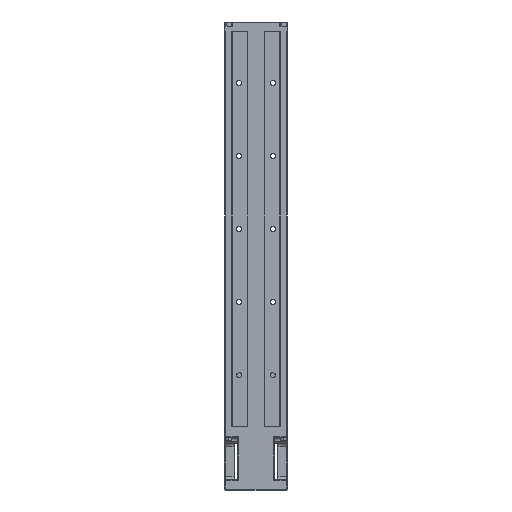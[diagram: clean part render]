
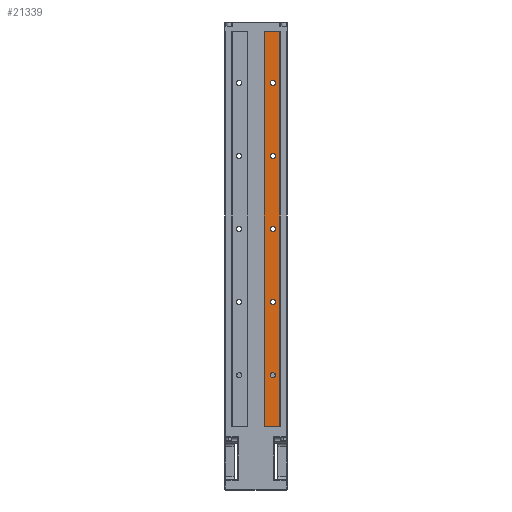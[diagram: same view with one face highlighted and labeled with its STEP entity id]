
A CAD part, front view. The second image highlights one B-rep face of the part: STEP entity #21339.
In plain terms, the highlighted planar face has unit normal (0, -1, 0).
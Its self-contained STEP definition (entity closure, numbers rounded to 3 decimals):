
#611 = DIRECTION ( 'NONE',  ( 0., 0., -1. ) ) ;
#888 = CIRCLE ( 'NONE', #34418, 3.5 ) ;
#1421 = CARTESIAN_POINT ( 'NONE',  ( -14.24, 21.854, 780.5 ) ) ;
#1499 = CARTESIAN_POINT ( 'NONE',  ( -14.24, 21.854, 477. ) ) ;
#3366 = CIRCLE ( 'NONE', #46566, 3.5 ) ;
#3585 = VECTOR ( 'NONE', #41159, 1000. ) ;
#3659 = VERTEX_POINT ( 'NONE', #10559 ) ;
#3777 = CARTESIAN_POINT ( 'NONE',  ( -14.24, 21.854, 380.5 ) ) ;
#4170 = LINE ( 'NONE', #21810, #39013 ) ;
#5568 = CIRCLE ( 'NONE', #36267, 3.5 ) ;
#5574 = ORIENTED_EDGE ( 'NONE', *, *, #25161, .T. ) ;
#5891 = EDGE_CURVE ( 'NONE', #38540, #15626, #3366, .T. ) ;
#6003 = DIRECTION ( 'NONE',  ( 0., 0., -1. ) ) ;
#6079 = CARTESIAN_POINT ( 'NONE',  ( -14.24, 21.854, 677. ) ) ;
#6493 = DIRECTION ( 'NONE',  ( 0., 0., -1. ) ) ;
#6632 = EDGE_CURVE ( 'NONE', #38543, #28692, #38100, .T. ) ;
#7137 = CARTESIAN_POINT ( 'NONE',  ( -14.24, 21.854, 777. ) ) ;
#8372 = ORIENTED_EDGE ( 'NONE', *, *, #27002, .T. ) ;
#8443 = AXIS2_PLACEMENT_3D ( 'NONE', #1499, #37510, #611 ) ;
#8529 = DIRECTION ( 'NONE',  ( 0., 0., -1. ) ) ;
#8880 = DIRECTION ( 'NONE',  ( 0., 1., 0. ) ) ;
#9064 = EDGE_LOOP ( 'NONE', ( #5574, #43344 ) ) ;
#9667 = DIRECTION ( 'NONE',  ( 0., 0., -1. ) ) ;
#10523 = ORIENTED_EDGE ( 'NONE', *, *, #38650, .T. ) ;
#10559 = CARTESIAN_POINT ( 'NONE',  ( -25.74, 21.854, 307. ) ) ;
#10563 = EDGE_LOOP ( 'NONE', ( #53186, #58614, #8372, #58556 ) ) ;
#10599 = EDGE_CURVE ( 'NONE', #38543, #3659, #49702, .T. ) ;
#10612 = DIRECTION ( 'NONE',  ( 0., 1., 0. ) ) ;
#10779 = DIRECTION ( 'NONE',  ( 0., 1., 0. ) ) ;
#11566 = VERTEX_POINT ( 'NONE', #31401 ) ;
#11988 = DIRECTION ( 'NONE',  ( 0., 0., -1. ) ) ;
#13286 = DIRECTION ( 'NONE',  ( -1., 0., 0. ) ) ;
#13484 = CARTESIAN_POINT ( 'NONE',  ( -4.74, 21.854, 307. ) ) ;
#14308 = FACE_BOUND ( 'NONE', #24527, .T. ) ;
#14604 = FACE_BOUND ( 'NONE', #51254, .T. ) ;
#15095 = EDGE_CURVE ( 'NONE', #42707, #26233, #16327, .T. ) ;
#15314 = CIRCLE ( 'NONE', #30633, 3.5 ) ;
#15405 = AXIS2_PLACEMENT_3D ( 'NONE', #50362, #8880, #45534 ) ;
#15626 = VERTEX_POINT ( 'NONE', #23004 ) ;
#16184 = ORIENTED_EDGE ( 'NONE', *, *, #5891, .T. ) ;
#16327 = CIRCLE ( 'NONE', #50013, 3.5 ) ;
#16681 = CARTESIAN_POINT ( 'NONE',  ( -4.74, 21.854, 847. ) ) ;
#17010 = CARTESIAN_POINT ( 'NONE',  ( -14.24, 21.854, 473.5 ) ) ;
#18180 = FACE_BOUND ( 'NONE', #51971, .T. ) ;
#19074 = FACE_BOUND ( 'NONE', #30022, .T. ) ;
#20302 = VERTEX_POINT ( 'NONE', #44995 ) ;
#20432 = CIRCLE ( 'NONE', #57966, 3.5 ) ;
#20466 = CARTESIAN_POINT ( 'NONE',  ( -14.24, 21.854, 777. ) ) ;
#20699 = ORIENTED_EDGE ( 'NONE', *, *, #52939, .T. ) ;
#21339 = ADVANCED_FACE ( 'NONE', ( #41401, #14308, #19074, #18180, #14604, #36561 ), #32358, .T. ) ;
#21347 = VECTOR ( 'NONE', #42046, 1000. ) ;
#21364 = AXIS2_PLACEMENT_3D ( 'NONE', #20466, #56368, #43077 ) ;
#21810 = CARTESIAN_POINT ( 'NONE',  ( -25.74, 21.854, 847. ) ) ;
#23004 = CARTESIAN_POINT ( 'NONE',  ( -14.24, 21.854, 680.5 ) ) ;
#24290 = CARTESIAN_POINT ( 'NONE',  ( -14.24, 21.854, 377. ) ) ;
#24527 = EDGE_LOOP ( 'NONE', ( #52815, #30004 ) ) ;
#24537 = DIRECTION ( 'NONE',  ( 0., 1., 0. ) ) ;
#24806 = DIRECTION ( 'NONE',  ( 0., 0., -1. ) ) ;
#25161 = EDGE_CURVE ( 'NONE', #11566, #41408, #30058, .T. ) ;
#26233 = VERTEX_POINT ( 'NONE', #50719 ) ;
#26759 = DIRECTION ( 'NONE',  ( 0., 1., 0. ) ) ;
#27002 = EDGE_CURVE ( 'NONE', #28692, #51781, #31822, .T. ) ;
#27279 = CARTESIAN_POINT ( 'NONE',  ( -14.24, 21.854, 673.5 ) ) ;
#27689 = VECTOR ( 'NONE', #13286, 1000. ) ;
#28257 = CARTESIAN_POINT ( 'NONE',  ( -14.24, 21.854, 377. ) ) ;
#28692 = VERTEX_POINT ( 'NONE', #16681 ) ;
#28720 = CARTESIAN_POINT ( 'NONE',  ( 5.76, 21.854, 847. ) ) ;
#29059 = DIRECTION ( 'NONE',  ( 0., 0., -1. ) ) ;
#30004 = ORIENTED_EDGE ( 'NONE', *, *, #41595, .T. ) ;
#30022 = EDGE_LOOP ( 'NONE', ( #46293, #32452 ) ) ;
#30058 = CIRCLE ( 'NONE', #43513, 3.5 ) ;
#30306 = CARTESIAN_POINT ( 'NONE',  ( -14.24, 21.854, 773.5 ) ) ;
#30633 = AXIS2_PLACEMENT_3D ( 'NONE', #28257, #46034, #9667 ) ;
#31401 = CARTESIAN_POINT ( 'NONE',  ( -14.24, 21.854, 373.5 ) ) ;
#31822 = LINE ( 'NONE', #59229, #3585 ) ;
#32358 = PLANE ( 'NONE',  #43929 ) ;
#32452 = ORIENTED_EDGE ( 'NONE', *, *, #35916, .T. ) ;
#33557 = DIRECTION ( 'NONE',  ( 0., -1., 0. ) ) ;
#34146 = EDGE_CURVE ( 'NONE', #41408, #11566, #15314, .T. ) ;
#34418 = AXIS2_PLACEMENT_3D ( 'NONE', #57766, #53252, #53556 ) ;
#34579 = CIRCLE ( 'NONE', #15405, 3.5 ) ;
#35146 = VERTEX_POINT ( 'NONE', #30306 ) ;
#35820 = CARTESIAN_POINT ( 'NONE',  ( -59.34, 21.854, 307. ) ) ;
#35916 = EDGE_CURVE ( 'NONE', #26233, #42707, #34579, .T. ) ;
#36125 = CARTESIAN_POINT ( 'NONE',  ( -14.24, 21.854, 577. ) ) ;
#36267 = AXIS2_PLACEMENT_3D ( 'NONE', #6079, #10612, #11988 ) ;
#36561 = FACE_OUTER_BOUND ( 'NONE', #10563, .T. ) ;
#36581 = DIRECTION ( 'NONE',  ( 0., 0., -1. ) ) ;
#37510 = DIRECTION ( 'NONE',  ( 0., 1., 0. ) ) ;
#37540 = ORIENTED_EDGE ( 'NONE', *, *, #58639, .T. ) ;
#37809 = CARTESIAN_POINT ( 'NONE',  ( -4.74, 21.854, 847. ) ) ;
#38100 = LINE ( 'NONE', #37809, #21347 ) ;
#38218 = CARTESIAN_POINT ( 'NONE',  ( -14.24, 21.854, 573.5 ) ) ;
#38540 = VERTEX_POINT ( 'NONE', #27279 ) ;
#38543 = VERTEX_POINT ( 'NONE', #13484 ) ;
#38650 = EDGE_CURVE ( 'NONE', #45221, #35146, #20432, .T. ) ;
#39013 = VECTOR ( 'NONE', #36581, 1000. ) ;
#39293 = CARTESIAN_POINT ( 'NONE',  ( -25.74, 21.854, 847. ) ) ;
#41067 = CIRCLE ( 'NONE', #8443, 3.5 ) ;
#41159 = DIRECTION ( 'NONE',  ( -1., 0., 0. ) ) ;
#41401 = FACE_BOUND ( 'NONE', #9064, .T. ) ;
#41408 = VERTEX_POINT ( 'NONE', #3777 ) ;
#41595 = EDGE_CURVE ( 'NONE', #20302, #42077, #888, .T. ) ;
#42046 = DIRECTION ( 'NONE',  ( 0., 0., 1. ) ) ;
#42077 = VERTEX_POINT ( 'NONE', #17010 ) ;
#42707 = VERTEX_POINT ( 'NONE', #38218 ) ;
#42950 = DIRECTION ( 'NONE',  ( 0., 1., 0. ) ) ;
#43077 = DIRECTION ( 'NONE',  ( 0., 0., -1. ) ) ;
#43344 = ORIENTED_EDGE ( 'NONE', *, *, #34146, .T. ) ;
#43513 = AXIS2_PLACEMENT_3D ( 'NONE', #24290, #42950, #6003 ) ;
#43929 = AXIS2_PLACEMENT_3D ( 'NONE', #28720, #33557, #6493 ) ;
#44995 = CARTESIAN_POINT ( 'NONE',  ( -14.24, 21.854, 480.5 ) ) ;
#45221 = VERTEX_POINT ( 'NONE', #1421 ) ;
#45534 = DIRECTION ( 'NONE',  ( 0., 0., -1. ) ) ;
#46034 = DIRECTION ( 'NONE',  ( 0., 1., 0. ) ) ;
#46293 = ORIENTED_EDGE ( 'NONE', *, *, #15095, .T. ) ;
#46566 = AXIS2_PLACEMENT_3D ( 'NONE', #55279, #10779, #29059 ) ;
#47093 = EDGE_CURVE ( 'NONE', #42077, #20302, #41067, .T. ) ;
#47428 = CIRCLE ( 'NONE', #21364, 3.5 ) ;
#49702 = LINE ( 'NONE', #35820, #27689 ) ;
#50013 = AXIS2_PLACEMENT_3D ( 'NONE', #36125, #26759, #8529 ) ;
#50362 = CARTESIAN_POINT ( 'NONE',  ( -14.24, 21.854, 577. ) ) ;
#50719 = CARTESIAN_POINT ( 'NONE',  ( -14.24, 21.854, 580.5 ) ) ;
#51254 = EDGE_LOOP ( 'NONE', ( #20699, #10523 ) ) ;
#51781 = VERTEX_POINT ( 'NONE', #39293 ) ;
#51971 = EDGE_LOOP ( 'NONE', ( #16184, #37540 ) ) ;
#52815 = ORIENTED_EDGE ( 'NONE', *, *, #47093, .T. ) ;
#52939 = EDGE_CURVE ( 'NONE', #35146, #45221, #47428, .T. ) ;
#53186 = ORIENTED_EDGE ( 'NONE', *, *, #10599, .F. ) ;
#53252 = DIRECTION ( 'NONE',  ( 0., 1., 0. ) ) ;
#53556 = DIRECTION ( 'NONE',  ( 0., 0., -1. ) ) ;
#55279 = CARTESIAN_POINT ( 'NONE',  ( -14.24, 21.854, 677. ) ) ;
#56368 = DIRECTION ( 'NONE',  ( 0., 1., 0. ) ) ;
#57766 = CARTESIAN_POINT ( 'NONE',  ( -14.24, 21.854, 477. ) ) ;
#57966 = AXIS2_PLACEMENT_3D ( 'NONE', #7137, #24537, #24806 ) ;
#57974 = EDGE_CURVE ( 'NONE', #51781, #3659, #4170, .T. ) ;
#58556 = ORIENTED_EDGE ( 'NONE', *, *, #57974, .T. ) ;
#58614 = ORIENTED_EDGE ( 'NONE', *, *, #6632, .T. ) ;
#58639 = EDGE_CURVE ( 'NONE', #15626, #38540, #5568, .T. ) ;
#59229 = CARTESIAN_POINT ( 'NONE',  ( -59.34, 21.854, 847. ) ) ;
